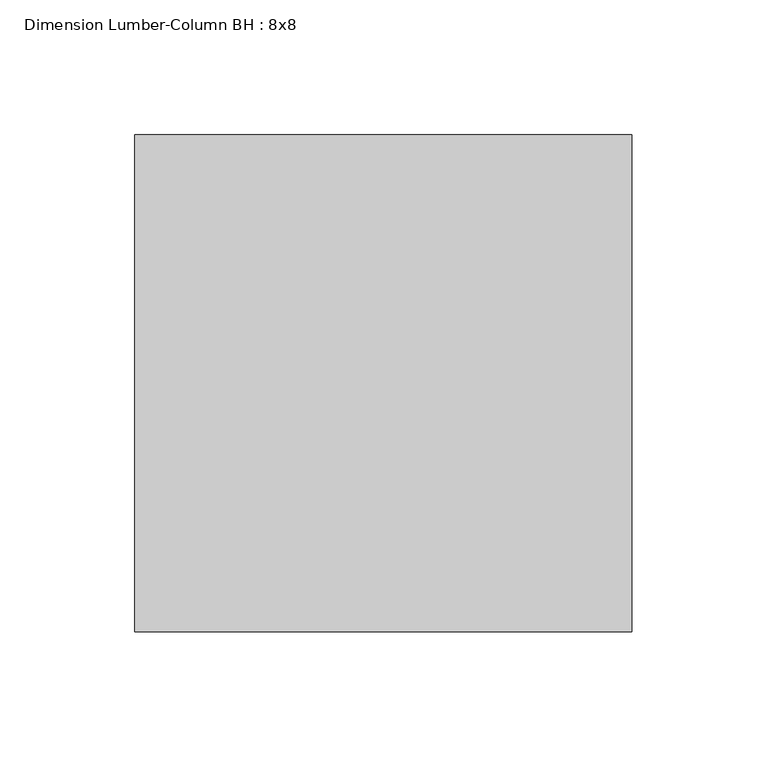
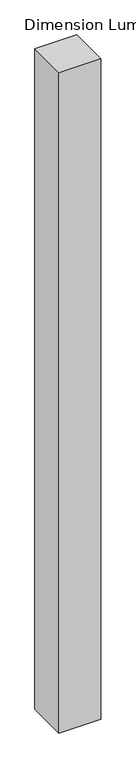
"""IFC4 building model written with IfcOpenShell, lengths in millimetres: column geometry, Dimension Lumber-Column BH : 8x8."""

from ifc_helpers import new_model, si_unit, frame, origin, place, context, project, spatial, polyline, outline, extrude, source, transform, mapped, element, save


def dimension_lumber_column_bh_8x8_c5bca323(model_context):
    return source(origin(), model_context, "Body", "SweptSolid", [
        extrude(outline(polyline([(92.075, 92.075), (92.075, -92.075), (-92.075, -92.075), (-92.075, 92.075), (92.075, 92.075)])), frame((0.0, 0.0, -158.75), z_axis=(0.0, 0.0, 1.0), x_axis=(1.0, 0.0, 0.0)), (0.0, 0.0, 1.0), 3086.1),
    ])


if __name__ == "__main__":
    model = new_model("IFC4")
    model_context = context("Model", 3, world=origin())
    ifc_project = project(units=[si_unit("LENGTHUNIT", "METRE", prefix="MILLI")], contexts=[model_context])
    site = spatial("IfcSite", under=ifc_project)
    building = spatial("IfcBuilding", under=site)
    placement = place(None, origin())
    dimension_lumber_column_bh_8x8_shape = dimension_lumber_column_bh_8x8_c5bca323(model_context)
    element("IfcColumn", 1, ObjectType="Dimension Lumber-Column BH : 8x8", at=placement, inside=building, context=model_context, shape_type="MappedRepresentation", body=[
        mapped(dimension_lumber_column_bh_8x8_shape, transform((0.0, 0.0, 0.0), x_axis=(1.0, 0.0, 0.0), y_axis=(0.0, 1.0, 0.0), z_axis=(0.0, 0.0, 1.0))),
    ])
    save(model, "model.ifc")
